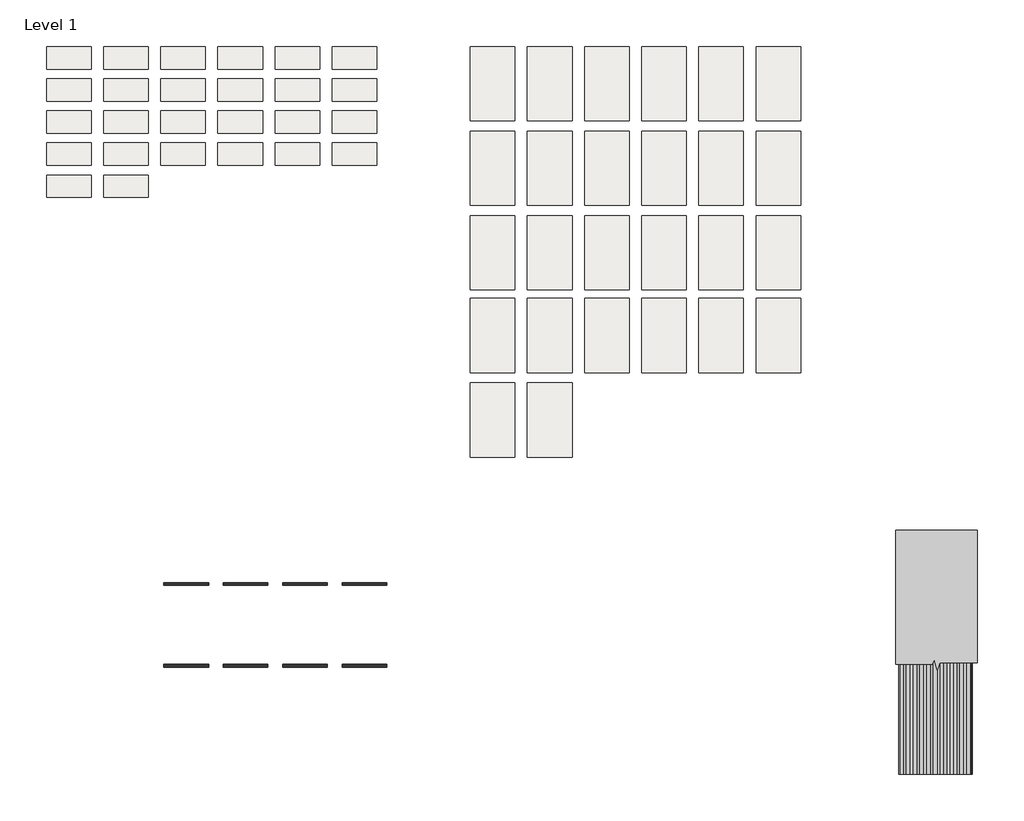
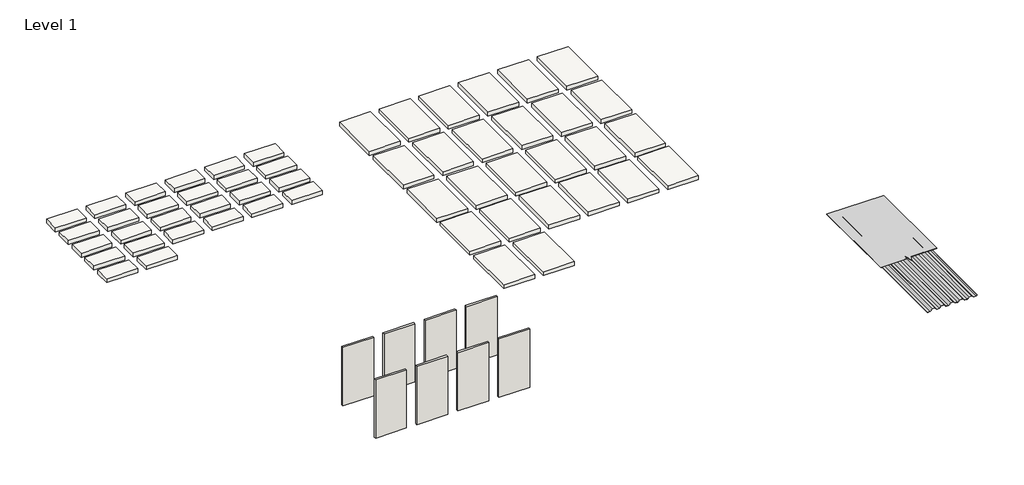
# One storey: 52 slabs, 8 walls, 2 proxies.
"""IFC4 building model written with IfcOpenShell, lengths in millimetres."""

import ifcopenshell
import ifcopenshell.guid

model = None  # the IFC model being written
_history = None  # IfcOwnerHistory: only IFC2X3 demands one
_inside = {}  # id of a spatial element -> (the spatial element, [elements in it])
_under = {}  # id of a project, library or spatial element -> (it, [spatial elements below it])
_declared = {}  # id of a project -> (the project, [libraries it declares])
_typed = {}  # id of a type object -> (the type object, [elements of that type])
_made_of = {}  # id of a material, layer set ... -> (it, [elements and type objects made of it])


def new_model(schema):
    """Start an empty IFC model of exactly this schema.

    Asked for "IFC4X3", IfcOpenShell would pick the latest addendum, in which some entities
    have other attributes; the version numbers below select the first issue.
    IFC2X3 requires an IfcOwnerHistory on every rooted entity: one is made here for all.
    """
    global model, _history
    if schema == "IFC4X3":
        model = ifcopenshell.file(schema_version=(4, 3, 0, 0))
    else:
        model = ifcopenshell.file(schema=schema)
    _inside.clear()
    _under.clear()
    _declared.clear()
    _typed.clear()
    _made_of.clear()
    _history = None
    if model.schema == "IFC2X3":
        org = make("IfcOrganization", Name="unknown")
        user = make(
            "IfcPersonAndOrganization",
            ThePerson=make("IfcPerson", FamilyName="unknown"),
            TheOrganization=org,
        )
        app = make(
            "IfcApplication",
            ApplicationDeveloper=org,
            Version="unknown",
            ApplicationFullName="unknown",
            ApplicationIdentifier="unknown",
        )
        _history = make(
            "IfcOwnerHistory",
            OwningUser=user,
            OwningApplication=app,
            ChangeAction="ADDED",
            CreationDate=0,
        )
    return model


def make(cls, **values):
    """One entity of the class cls with the attributes given. An attribute that is None is left unset."""
    return model.create_entity(
        cls, **{name: value for name, value in values.items() if value is not None}
    )


def rooted(cls, **values):
    """An entity with a GlobalId (a new one), such as an element, a storey or a relation."""
    return make(cls, GlobalId=ifcopenshell.guid.new(), OwnerHistory=_history, **values)


def si_unit(unit_type, name, prefix=None):
    """IfcSIUnit, for example si_unit("LENGTHUNIT", "METRE", prefix="MILLI")."""
    return make("IfcSIUnit", UnitType=unit_type, Prefix=prefix, Name=name)


def assignment(units):
    """IfcUnitAssignment: the units of a project."""
    return None if units is None else make("IfcUnitAssignment", Units=units)


def point(xyz):
    """IfcCartesianPoint."""
    return None if xyz is None else make("IfcCartesianPoint", Coordinates=xyz)


def direction(xyz):
    """IfcDirection."""
    return None if xyz is None else make("IfcDirection", DirectionRatios=xyz)


def frame(location, z_axis=None, x_axis=None):
    """IfcAxis2Placement3D, a coordinate frame: its origin and axes. An axis left out is left unset."""
    return make(
        "IfcAxis2Placement3D",
        Location=point(location),
        Axis=direction(z_axis),
        RefDirection=direction(x_axis),
    )


def origin():
    """The frame at (0, 0, 0) with its axes left unset."""
    return frame((0.0, 0.0, 0.0))


def origin_with_axes():
    """The frame at (0, 0, 0) with the z axis (0, 0, 1) and the x axis (1, 0, 0) written out."""
    return frame((0.0, 0.0, 0.0), z_axis=(0.0, 0.0, 1.0), x_axis=(1.0, 0.0, 0.0))


def place(relative_to, where):
    """IfcLocalPlacement: puts the frame where relative to a parent placement (None: the world)."""
    return make(
        "IfcLocalPlacement", PlacementRelTo=relative_to, RelativePlacement=where
    )


def context(
    kind, dimensions, precision=None, world=None, true_north=None, identifier=None
):
    """IfcGeometricRepresentationContext, for example the 3D "Model" context."""
    return make(
        "IfcGeometricRepresentationContext",
        ContextIdentifier=identifier,
        ContextType=kind,
        CoordinateSpaceDimension=dimensions,
        Precision=precision,
        WorldCoordinateSystem=world,
        TrueNorth=true_north,
    )


def project(units=None, contexts=None):
    """IfcProject with its units and contexts."""
    return rooted(
        "IfcProject",
        Name="project",
        RepresentationContexts=contexts,
        UnitsInContext=assignment(units),
    )


def spatial(cls, under=None, at=None, **own):
    """A site, building, storey or space (cls), placed at a placement, below another one or the project."""
    s = rooted(cls, ObjectPlacement=at, **own)
    if under is not None:
        _under.setdefault(under.id(), (under, []))[1].append(s)
    return s


def polyline(points):
    """IfcPolyline through the points."""
    return make("IfcPolyline", Points=[point(p) for p in points])


def outline(outer, holes=None, kind="AREA"):
    """IfcArbitraryClosedProfileDef: a profile drawn as a closed curve; with holes, ...WithVoids."""
    if holes is None:
        return make("IfcArbitraryClosedProfileDef", ProfileType=kind, OuterCurve=outer)
    return make(
        "IfcArbitraryProfileDefWithVoids",
        ProfileType=kind,
        OuterCurve=outer,
        InnerCurves=holes,
    )


def extrude(swept, where, along, depth):
    """IfcExtrudedAreaSolid: the profile swept, set in the frame where, extruded along a direction by depth."""
    return make(
        "IfcExtrudedAreaSolid",
        SweptArea=swept,
        Position=where,
        ExtrudedDirection=direction(along),
        Depth=depth,
    )


def shape(context_of_items, identifier, shape_type, items):
    """IfcShapeRepresentation: the items that make up one representation, for example the "Body"."""
    return make(
        "IfcShapeRepresentation",
        ContextOfItems=context_of_items,
        RepresentationIdentifier=identifier,
        RepresentationType=shape_type,
        Items=items,
    )


def source(mapping_origin, context_of_items, identifier, shape_type, items):
    """IfcRepresentationMap: a shape defined once, which mapped items show again and again."""
    return make(
        "IfcRepresentationMap",
        MappingOrigin=mapping_origin,
        MappedRepresentation=shape(context_of_items, identifier, shape_type, items),
    )


def transform(
    local_origin,
    x_axis=None,
    y_axis=None,
    z_axis=None,
    scale=None,
    scale2=None,
    scale3=None,
    uniform=True,
):
    """IfcCartesianTransformationOperator3D, or its non-uniform kind. x_axis, y_axis, z_axis: its Axis1, 2, 3."""
    if uniform:
        return make(
            "IfcCartesianTransformationOperator3D",
            Axis1=direction(x_axis),
            Axis2=direction(y_axis),
            LocalOrigin=point(local_origin),
            Scale=scale,
            Axis3=direction(z_axis),
        )
    return make(
        "IfcCartesianTransformationOperator3DnonUniform",
        Axis1=direction(x_axis),
        Axis2=direction(y_axis),
        LocalOrigin=point(local_origin),
        Scale=scale,
        Axis3=direction(z_axis),
        Scale2=scale2,
        Scale3=scale3,
    )


def mapped(mapping_source, mapping_target):
    """IfcMappedItem: shows the shape of a source again, moved by a transform."""
    return make(
        "IfcMappedItem", MappingSource=mapping_source, MappingTarget=mapping_target
    )


def made_of(thing, what):
    """Note that an element or type object is made of a material, layer set ...; save() writes the relation."""
    if what is not None:
        _made_of.setdefault(what.id(), (what, []))[1].append(thing)
    return thing


def element(
    cls,
    number,
    at=None,
    inside=None,
    cuts=None,
    type_object=None,
    material=None,
    context=None,
    identifier="Body",
    shape_type=None,
    held_by="IfcProductDefinitionShape",
    body=None,
    shapes=None,
    **own,
):
    """One element of the class cls, such as IfcWall. Its Tag is "e" and its number.

    at: its placement. inside: the storey or other place that contains it. cuts: it is an
    opening in that element (IfcRelVoidsElement). A single representation is given by context,
    identifier, shape_type and body (its items); several are given by shapes. held_by: the class
    of the entity that holds the representations. save() writes the other relations.
    """
    e = rooted(cls, Tag="e%d" % number, ObjectPlacement=at, **own)
    if body is not None:
        shapes = [shape(context, identifier, shape_type, body)]
    if shapes is not None:
        e.Representation = make(held_by, Representations=shapes)
    if inside is not None:
        _inside.setdefault(inside.id(), (inside, []))[1].append(e)
    if cuts is not None:
        rooted(
            "IfcRelVoidsElement", RelatingBuildingElement=cuts, RelatedOpeningElement=e
        )
    if type_object is not None:
        _typed.setdefault(type_object.id(), (type_object, []))[1].append(e)
    return made_of(e, material)


def aggregate(whole, parts):
    """IfcRelAggregates: a whole, such as a stair, and the parts it consists of."""
    return rooted("IfcRelAggregates", RelatingObject=whole, RelatedObjects=parts)


def save(model, path):
    """Write the relations noted so far, then the file.

    IfcRelAggregates (storeys below a building ...), IfcRelContainedInSpatialStructure (elements
    in a storey), IfcRelDefinesByType, IfcRelAssociatesMaterial and IfcRelDeclares: one each for
    every whole, place, type object, material and project.
    """
    for whole, parts in _under.values():
        aggregate(whole, parts)
    for where, things in _inside.values():
        rooted(
            "IfcRelContainedInSpatialStructure",
            RelatedElements=things,
            RelatingStructure=where,
        )
    for kind, things in _typed.values():
        rooted("IfcRelDefinesByType", RelatedObjects=things, RelatingType=kind)
    for what, things in _made_of.values():
        rooted("IfcRelAssociatesMaterial", RelatedObjects=things, RelatingMaterial=what)
    for by, libraries in _declared.values():
        rooted("IfcRelDeclares", RelatingContext=by, RelatedDefinitions=libraries)
    model.write(path)


def proxy_33632e19(model_context):
    return source(origin(), model_context, "Body", "SweptSolid", [
        extrude(outline(polyline([(0.0, -247.8557567), (37.465, -209.0596134), (37.465, -156.7003866), (0.0, -117.9042433), (0.0, -64.9757567), (37.465, -26.1796134), (37.465, 26.1796134), (0.0, 64.9757567), (0.0, 117.9042433), (37.465, 156.7003866), (37.465, 209.0596134), (0.0, 247.8557567), (0.0, 300.7842433), (37.465, 339.5803866), (37.465, 391.9396134), (0.0, 430.7357567), (0.0, 483.6642433), (19.5273022, 503.8853568), (20.1632012, 503.2494578), (0.89916, 483.3009591), (0.89916, 431.0990409), (38.36416, 392.3028977), (38.36416, 339.2171023), (0.89916, 300.4209591), (0.89916, 248.2190409), (38.36416, 209.4228977), (38.36416, 156.3371023), (0.89916, 117.5409591), (0.89916, 65.3390409), (38.36416, 26.5428977), (38.36416, -26.5428977), (0.89916, -65.3390409), (0.89916, -117.5409591), (38.36416, -156.3371023), (38.36416, -209.4228977), (0.89916, -248.2190409), (0.89916, -300.4209591), (38.36416, -339.2171023), (38.36416, -392.8721575), (0.89916, -431.6683007), (0.89916, -483.3009619), (14.7449924, -497.6387411), (14.1090934, -498.2746401), (0.0, -483.6642462), (0.0, -431.3050165), (37.465, -392.5088732), (37.465, -339.5803866), (0.0, -300.7842433), (0.0, -247.8557567)])), frame((0.0, -3302.0, 0.0), z_axis=(0.0, 1.0, 0.0), x_axis=(0.0, 0.0, 1.0)), (0.0, 0.0, 1.0), 3302.0),
    ])


def section_mask3_section_mask_4427abd5(model_context):
    return source(origin(), model_context, "Body", "SweptSolid", [
        extrude(outline(polyline([(8137.364325, 612.223934), (7633.1736421, 612.223934), (7633.1736421, 2446.4114947), (8752.9802012, 2446.4114947), (8752.9802012, 633.0724056), (8239.9982256, 633.0724056), (8203.3813689, 533.9095639), (8160.3812645, 674.5565681), (8137.364325, 612.223934)])), frame((0.0, 0.0, 45.0273345), z_axis=(0.0, 0.0, 1.0), x_axis=(1.0, 0.0, 0.0)), (0.0, 0.0, 1.0), 7.2631445),
    ])


model = new_model("IFC4")

# Units and contexts
model_context = context("Model", 3, world=origin())
ifc_project = project(units=[si_unit("LENGTHUNIT", "METRE", prefix="MILLI")], contexts=[model_context])

# Site, building, storey
site = spatial("IfcSite", under=ifc_project)
building = spatial("IfcBuilding", under=site)
storey = spatial("IfcBuildingStorey", under=building, Name="Level 1", Elevation=0.0)

# Proxies
placement = place(None, origin())
proxy_shape = proxy_33632e19(model_context)
element("IfcBuildingElementProxy", 1, Name="Reversed_HR-36_Panel_AEP_Span : 36\" Reversed HR-36 Panel - 18ga", ObjectType="Reversed_HR-36_Panel_AEP_Span : 36\" Reversed HR-36 Panel - 18ga", at=placement, inside=storey, context=model_context, shape_type="MappedRepresentation", body=[
    mapped(proxy_shape, transform((7230.0526175, 859.7496021, 0.0), x_axis=(1.0, 0.0, 0.0), y_axis=(0.0, 1.0, 0.0), z_axis=(0.0, 0.0, 1.0))),
])
section_mask3_section_mask_shape = section_mask3_section_mask_4427abd5(model_context)
element("IfcBuildingElementProxy", 2, Name="Section Mask3 : Section Mask", ObjectType="Section Mask3 : Section Mask", at=placement, inside=storey, context=model_context, shape_type="MappedRepresentation", body=[
    mapped(section_mask3_section_mask_shape, transform((-944.8333101, -1549.8820293, -1.5875), x_axis=(1.0, 0.0, 0.0), y_axis=(0.0, 1.0, 0.0), z_axis=(0.0, 0.0, 1.0))),
])

# Slabs
element("IfcSlab", 3, ObjectType="AEP Span Material Sample", at=placement, inside=storey, context=model_context, shape_type="SweptSolid", body=[
    extrude(outline(polyline([(-4307.8660775, 7199.3976846), (-4917.4660775, 7199.3976846), (-4917.4660775, 7504.1976846), (-4307.8660775, 7504.1976846), (-4307.8660775, 7199.3976846)])), frame((0.0, 0.0, -79.375), z_axis=(0.0, 0.0, 1.0), x_axis=(1.0, 0.0, 0.0)), (0.0, 0.0, 1.0), 79.375),
])
element("IfcSlab", 4, ObjectType="AEP Span Material Sample", at=placement, inside=storey, context=model_context, shape_type="SweptSolid", body=[
    extrude(outline(polyline([(-3526.8160775, 7199.3976846), (-4136.4160775, 7199.3976846), (-4136.4160775, 7504.1976846), (-3526.8160775, 7504.1976846), (-3526.8160775, 7199.3976846)])), frame((0.0, 0.0, -79.375), z_axis=(0.0, 0.0, 1.0), x_axis=(1.0, 0.0, 0.0)), (0.0, 0.0, 1.0), 79.375),
])
element("IfcSlab", 5, ObjectType="AEP Span Material Sample", at=placement, inside=storey, context=model_context, shape_type="SweptSolid", body=[
    extrude(outline(polyline([(-2745.7660775, 7199.3976846), (-3355.3660775, 7199.3976846), (-3355.3660775, 7504.1976846), (-2745.7660775, 7504.1976846), (-2745.7660775, 7199.3976846)])), frame((0.0, 0.0, -79.375), z_axis=(0.0, 0.0, 1.0), x_axis=(1.0, 0.0, 0.0)), (0.0, 0.0, 1.0), 79.375),
])
element("IfcSlab", 6, ObjectType="AEP Span Material Sample", at=placement, inside=storey, context=model_context, shape_type="SweptSolid", body=[
    extrude(outline(polyline([(-1964.7160775, 7199.3976846), (-2574.3160775, 7199.3976846), (-2574.3160775, 7504.1976846), (-1964.7160775, 7504.1976846), (-1964.7160775, 7199.3976846)])), frame((0.0, 0.0, -79.375), z_axis=(0.0, 0.0, 1.0), x_axis=(1.0, 0.0, 0.0)), (0.0, 0.0, 1.0), 79.375),
])
element("IfcSlab", 7, ObjectType="AEP Span Material Sample", at=placement, inside=storey, context=model_context, shape_type="SweptSolid", body=[
    extrude(outline(polyline([(-1183.6660775, 7199.3976846), (-1793.2660775, 7199.3976846), (-1793.2660775, 7504.1976846), (-1183.6660775, 7504.1976846), (-1183.6660775, 7199.3976846)])), frame((0.0, 0.0, -79.375), z_axis=(0.0, 0.0, 1.0), x_axis=(1.0, 0.0, 0.0)), (0.0, 0.0, 1.0), 79.375),
])
element("IfcSlab", 8, ObjectType="AEP Span Material Sample", at=placement, inside=storey, context=model_context, shape_type="SweptSolid", body=[
    extrude(outline(polyline([(-402.6160775, 7199.3976846), (-1012.2160775, 7199.3976846), (-1012.2160775, 7504.1976846), (-402.6160775, 7504.1976846), (-402.6160775, 7199.3976846)])), frame((0.0, 0.0, -79.375), z_axis=(0.0, 0.0, 1.0), x_axis=(1.0, 0.0, 0.0)), (0.0, 0.0, 1.0), 79.375),
])
element("IfcSlab", 9, ObjectType="AEP Span Material Sample", at=placement, inside=storey, context=model_context, shape_type="SweptSolid", body=[
    extrude(outline(polyline([(-4307.8660775, 6761.2476846), (-4917.4660775, 6761.2476846), (-4917.4660775, 7066.0476846), (-4307.8660775, 7066.0476846), (-4307.8660775, 6761.2476846)])), frame((0.0, 0.0, -79.375), z_axis=(0.0, 0.0, 1.0), x_axis=(1.0, 0.0, 0.0)), (0.0, 0.0, 1.0), 79.375),
])
element("IfcSlab", 10, ObjectType="AEP Span Material Sample", at=placement, inside=storey, context=model_context, shape_type="SweptSolid", body=[
    extrude(outline(polyline([(-3526.8160775, 6761.2476846), (-4136.4160775, 6761.2476846), (-4136.4160775, 7066.0476846), (-3526.8160775, 7066.0476846), (-3526.8160775, 6761.2476846)])), frame((0.0, 0.0, -79.375), z_axis=(0.0, 0.0, 1.0), x_axis=(1.0, 0.0, 0.0)), (0.0, 0.0, 1.0), 79.375),
])
element("IfcSlab", 11, ObjectType="AEP Span Material Sample", at=placement, inside=storey, context=model_context, shape_type="SweptSolid", body=[
    extrude(outline(polyline([(-2745.7660775, 6761.2476846), (-3355.3660775, 6761.2476846), (-3355.3660775, 7066.0476846), (-2745.7660775, 7066.0476846), (-2745.7660775, 6761.2476846)])), frame((0.0, 0.0, -79.375), z_axis=(0.0, 0.0, 1.0), x_axis=(1.0, 0.0, 0.0)), (0.0, 0.0, 1.0), 79.375),
])
element("IfcSlab", 12, ObjectType="AEP Span Material Sample", at=placement, inside=storey, context=model_context, shape_type="SweptSolid", body=[
    extrude(outline(polyline([(-1964.7160775, 6761.2476846), (-2574.3160775, 6761.2476846), (-2574.3160775, 7066.0476846), (-1964.7160775, 7066.0476846), (-1964.7160775, 6761.2476846)])), frame((0.0, 0.0, -79.375), z_axis=(0.0, 0.0, 1.0), x_axis=(1.0, 0.0, 0.0)), (0.0, 0.0, 1.0), 79.375),
])
element("IfcSlab", 13, ObjectType="AEP Span Material Sample", at=placement, inside=storey, context=model_context, shape_type="SweptSolid", body=[
    extrude(outline(polyline([(-1183.6660775, 6761.2476846), (-1793.2660775, 6761.2476846), (-1793.2660775, 7066.0476846), (-1183.6660775, 7066.0476846), (-1183.6660775, 6761.2476846)])), frame((0.0, 0.0, -79.375), z_axis=(0.0, 0.0, 1.0), x_axis=(1.0, 0.0, 0.0)), (0.0, 0.0, 1.0), 79.375),
])
element("IfcSlab", 14, ObjectType="AEP Span Material Sample", at=placement, inside=storey, context=model_context, shape_type="SweptSolid", body=[
    extrude(outline(polyline([(-402.6160775, 6761.2476846), (-1012.2160775, 6761.2476846), (-1012.2160775, 7066.0476846), (-402.6160775, 7066.0476846), (-402.6160775, 6761.2476846)])), frame((0.0, 0.0, -79.375), z_axis=(0.0, 0.0, 1.0), x_axis=(1.0, 0.0, 0.0)), (0.0, 0.0, 1.0), 79.375),
])
element("IfcSlab", 15, ObjectType="AEP Span Material Sample", at=placement, inside=storey, context=model_context, shape_type="SweptSolid", body=[
    extrude(outline(polyline([(-4307.8660775, 6323.0976846), (-4917.4660775, 6323.0976846), (-4917.4660775, 6627.8976846), (-4307.8660775, 6627.8976846), (-4307.8660775, 6323.0976846)])), frame((0.0, 0.0, -79.375), z_axis=(0.0, 0.0, 1.0), x_axis=(1.0, 0.0, 0.0)), (0.0, 0.0, 1.0), 79.375),
])
element("IfcSlab", 16, ObjectType="AEP Span Material Sample", at=placement, inside=storey, context=model_context, shape_type="SweptSolid", body=[
    extrude(outline(polyline([(-3526.8160775, 6323.0976846), (-4136.4160775, 6323.0976846), (-4136.4160775, 6627.8976846), (-3526.8160775, 6627.8976846), (-3526.8160775, 6323.0976846)])), frame((0.0, 0.0, -79.375), z_axis=(0.0, 0.0, 1.0), x_axis=(1.0, 0.0, 0.0)), (0.0, 0.0, 1.0), 79.375),
])
element("IfcSlab", 17, ObjectType="AEP Span Material Sample", at=placement, inside=storey, context=model_context, shape_type="SweptSolid", body=[
    extrude(outline(polyline([(-2745.7660775, 6323.0976846), (-3355.3660775, 6323.0976846), (-3355.3660775, 6627.8976846), (-2745.7660775, 6627.8976846), (-2745.7660775, 6323.0976846)])), frame((0.0, 0.0, -79.375), z_axis=(0.0, 0.0, 1.0), x_axis=(1.0, 0.0, 0.0)), (0.0, 0.0, 1.0), 79.375),
])
element("IfcSlab", 18, ObjectType="AEP Span Material Sample", at=placement, inside=storey, context=model_context, shape_type="SweptSolid", body=[
    extrude(outline(polyline([(-1964.7160775, 6323.0976846), (-2574.3160775, 6323.0976846), (-2574.3160775, 6627.8976846), (-1964.7160775, 6627.8976846), (-1964.7160775, 6323.0976846)])), frame((0.0, 0.0, -79.375), z_axis=(0.0, 0.0, 1.0), x_axis=(1.0, 0.0, 0.0)), (0.0, 0.0, 1.0), 79.375),
])
element("IfcSlab", 19, ObjectType="AEP Span Material Sample", at=placement, inside=storey, context=model_context, shape_type="SweptSolid", body=[
    extrude(outline(polyline([(-1183.6660775, 6323.0976846), (-1793.2660775, 6323.0976846), (-1793.2660775, 6627.8976846), (-1183.6660775, 6627.8976846), (-1183.6660775, 6323.0976846)])), frame((0.0, 0.0, -79.375), z_axis=(0.0, 0.0, 1.0), x_axis=(1.0, 0.0, 0.0)), (0.0, 0.0, 1.0), 79.375),
])
element("IfcSlab", 20, ObjectType="AEP Span Material Sample", at=placement, inside=storey, context=model_context, shape_type="SweptSolid", body=[
    extrude(outline(polyline([(-402.6160775, 6323.0976846), (-1012.2160775, 6323.0976846), (-1012.2160775, 6627.8976846), (-402.6160775, 6627.8976846), (-402.6160775, 6323.0976846)])), frame((0.0, 0.0, -79.375), z_axis=(0.0, 0.0, 1.0), x_axis=(1.0, 0.0, 0.0)), (0.0, 0.0, 1.0), 79.375),
])
element("IfcSlab", 21, ObjectType="AEP Span Material Sample", at=placement, inside=storey, context=model_context, shape_type="SweptSolid", body=[
    extrude(outline(polyline([(-4307.8660775, 5884.9476846), (-4917.4660775, 5884.9476846), (-4917.4660775, 6189.7476846), (-4307.8660775, 6189.7476846), (-4307.8660775, 5884.9476846)])), frame((0.0, 0.0, -79.375), z_axis=(0.0, 0.0, 1.0), x_axis=(1.0, 0.0, 0.0)), (0.0, 0.0, 1.0), 79.375),
])
element("IfcSlab", 22, ObjectType="AEP Span Material Sample", at=placement, inside=storey, context=model_context, shape_type="SweptSolid", body=[
    extrude(outline(polyline([(-3526.8160775, 5884.9476846), (-4136.4160775, 5884.9476846), (-4136.4160775, 6189.7476846), (-3526.8160775, 6189.7476846), (-3526.8160775, 5884.9476846)])), frame((0.0, 0.0, -79.375), z_axis=(0.0, 0.0, 1.0), x_axis=(1.0, 0.0, 0.0)), (0.0, 0.0, 1.0), 79.375),
])
element("IfcSlab", 23, ObjectType="AEP Span Material Sample", at=placement, inside=storey, context=model_context, shape_type="SweptSolid", body=[
    extrude(outline(polyline([(-2745.7660775, 5884.9476846), (-3355.3660775, 5884.9476846), (-3355.3660775, 6189.7476846), (-2745.7660775, 6189.7476846), (-2745.7660775, 5884.9476846)])), frame((0.0, 0.0, -79.375), z_axis=(0.0, 0.0, 1.0), x_axis=(1.0, 0.0, 0.0)), (0.0, 0.0, 1.0), 79.375),
])
element("IfcSlab", 24, ObjectType="AEP Span Material Sample", at=placement, inside=storey, context=model_context, shape_type="SweptSolid", body=[
    extrude(outline(polyline([(-1964.7160775, 5884.9476846), (-2574.3160775, 5884.9476846), (-2574.3160775, 6189.7476846), (-1964.7160775, 6189.7476846), (-1964.7160775, 5884.9476846)])), frame((0.0, 0.0, -79.375), z_axis=(0.0, 0.0, 1.0), x_axis=(1.0, 0.0, 0.0)), (0.0, 0.0, 1.0), 79.375),
])
element("IfcSlab", 25, ObjectType="AEP Span Material Sample", at=placement, inside=storey, context=model_context, shape_type="SweptSolid", body=[
    extrude(outline(polyline([(-1183.6660775, 5884.9476846), (-1793.2660775, 5884.9476846), (-1793.2660775, 6189.7476846), (-1183.6660775, 6189.7476846), (-1183.6660775, 5884.9476846)])), frame((0.0, 0.0, -79.375), z_axis=(0.0, 0.0, 1.0), x_axis=(1.0, 0.0, 0.0)), (0.0, 0.0, 1.0), 79.375),
])
element("IfcSlab", 26, ObjectType="AEP Span Material Sample", at=placement, inside=storey, context=model_context, shape_type="SweptSolid", body=[
    extrude(outline(polyline([(-402.6160775, 5884.9476846), (-1012.2160775, 5884.9476846), (-1012.2160775, 6189.7476846), (-402.6160775, 6189.7476846), (-402.6160775, 5884.9476846)])), frame((0.0, 0.0, -79.375), z_axis=(0.0, 0.0, 1.0), x_axis=(1.0, 0.0, 0.0)), (0.0, 0.0, 1.0), 79.375),
])
element("IfcSlab", 27, ObjectType="AEP Span Material Sample", at=placement, inside=storey, context=model_context, shape_type="SweptSolid", body=[
    extrude(outline(polyline([(-4307.8660775, 5446.7976846), (-4917.4660775, 5446.7976846), (-4917.4660775, 5751.5976846), (-4307.8660775, 5751.5976846), (-4307.8660775, 5446.7976846)])), frame((0.0, 0.0, -79.375), z_axis=(0.0, 0.0, 1.0), x_axis=(1.0, 0.0, 0.0)), (0.0, 0.0, 1.0), 79.375),
])
element("IfcSlab", 28, ObjectType="AEP Span Material Sample", at=placement, inside=storey, context=model_context, shape_type="SweptSolid", body=[
    extrude(outline(polyline([(-3526.8160775, 5446.7976846), (-4136.4160775, 5446.7976846), (-4136.4160775, 5751.5976846), (-3526.8160775, 5751.5976846), (-3526.8160775, 5446.7976846)])), frame((0.0, 0.0, -79.375), z_axis=(0.0, 0.0, 1.0), x_axis=(1.0, 0.0, 0.0)), (0.0, 0.0, 1.0), 79.375),
])
element("IfcSlab", 29, ObjectType="AEP Span Material Sample", at=placement, inside=storey, context=model_context, shape_type="SweptSolid", body=[
    extrude(outline(polyline([(1485.5495194, 6492.0895229), (875.9495194, 6492.0895229), (875.9495194, 7508.0895229), (1485.5495194, 7508.0895229), (1485.5495194, 6492.0895229)])), frame((0.0, 0.0, -79.375), z_axis=(0.0, 0.0, 1.0), x_axis=(1.0, 0.0, 0.0)), (0.0, 0.0, 1.0), 79.375),
])
element("IfcSlab", 30, ObjectType="AEP Span Material Sample", at=placement, inside=storey, context=model_context, shape_type="SweptSolid", body=[
    extrude(outline(polyline([(2266.5995194, 6492.0895229), (1656.9995194, 6492.0895229), (1656.9995194, 7508.0895229), (2266.5995194, 7508.0895229), (2266.5995194, 6492.0895229)])), frame((0.0, 0.0, -79.375), z_axis=(0.0, 0.0, 1.0), x_axis=(1.0, 0.0, 0.0)), (0.0, 0.0, 1.0), 79.375),
])
element("IfcSlab", 31, ObjectType="AEP Span Material Sample", at=placement, inside=storey, context=model_context, shape_type="SweptSolid", body=[
    extrude(outline(polyline([(3047.6495194, 6492.0895229), (2438.0495194, 6492.0895229), (2438.0495194, 7508.0895229), (3047.6495194, 7508.0895229), (3047.6495194, 6492.0895229)])), frame((0.0, 0.0, -79.375), z_axis=(0.0, 0.0, 1.0), x_axis=(1.0, 0.0, 0.0)), (0.0, 0.0, 1.0), 79.375),
])
element("IfcSlab", 32, ObjectType="AEP Span Material Sample", at=placement, inside=storey, context=model_context, shape_type="SweptSolid", body=[
    extrude(outline(polyline([(3828.6995194, 6492.0895229), (3219.0995194, 6492.0895229), (3219.0995194, 7508.0895229), (3828.6995194, 7508.0895229), (3828.6995194, 6492.0895229)])), frame((0.0, 0.0, -79.375), z_axis=(0.0, 0.0, 1.0), x_axis=(1.0, 0.0, 0.0)), (0.0, 0.0, 1.0), 79.375),
])
element("IfcSlab", 33, ObjectType="AEP Span Material Sample", at=placement, inside=storey, context=model_context, shape_type="SweptSolid", body=[
    extrude(outline(polyline([(4609.7495194, 6492.0895229), (4000.1495194, 6492.0895229), (4000.1495194, 7508.0895229), (4609.7495194, 7508.0895229), (4609.7495194, 6492.0895229)])), frame((0.0, 0.0, -79.375), z_axis=(0.0, 0.0, 1.0), x_axis=(1.0, 0.0, 0.0)), (0.0, 0.0, 1.0), 79.375),
])
element("IfcSlab", 34, ObjectType="AEP Span Material Sample", at=placement, inside=storey, context=model_context, shape_type="SweptSolid", body=[
    extrude(outline(polyline([(5390.7995194, 6492.0895229), (4781.1995194, 6492.0895229), (4781.1995194, 7508.0895229), (5390.7995194, 7508.0895229), (5390.7995194, 6492.0895229)])), frame((0.0, 0.0, -79.375), z_axis=(0.0, 0.0, 1.0), x_axis=(1.0, 0.0, 0.0)), (0.0, 0.0, 1.0), 79.375),
])
element("IfcSlab", 35, ObjectType="AEP Span Material Sample", at=placement, inside=storey, context=model_context, shape_type="SweptSolid", body=[
    extrude(outline(polyline([(1485.5495194, 5336.3895229), (875.9495194, 5336.3895229), (875.9495194, 6352.3895229), (1485.5495194, 6352.3895229), (1485.5495194, 5336.3895229)])), frame((0.0, 0.0, -79.375), z_axis=(0.0, 0.0, 1.0), x_axis=(1.0, 0.0, 0.0)), (0.0, 0.0, 1.0), 79.375),
])
element("IfcSlab", 36, ObjectType="AEP Span Material Sample", at=placement, inside=storey, context=model_context, shape_type="SweptSolid", body=[
    extrude(outline(polyline([(2266.5995194, 5336.3895229), (1656.9995194, 5336.3895229), (1656.9995194, 6352.3895229), (2266.5995194, 6352.3895229), (2266.5995194, 5336.3895229)])), frame((0.0, 0.0, -79.375), z_axis=(0.0, 0.0, 1.0), x_axis=(1.0, 0.0, 0.0)), (0.0, 0.0, 1.0), 79.375),
])
element("IfcSlab", 37, ObjectType="AEP Span Material Sample", at=placement, inside=storey, context=model_context, shape_type="SweptSolid", body=[
    extrude(outline(polyline([(3047.6495194, 5336.3895229), (2438.0495194, 5336.3895229), (2438.0495194, 6352.3895229), (3047.6495194, 6352.3895229), (3047.6495194, 5336.3895229)])), frame((0.0, 0.0, -79.375), z_axis=(0.0, 0.0, 1.0), x_axis=(1.0, 0.0, 0.0)), (0.0, 0.0, 1.0), 79.375),
])
element("IfcSlab", 38, ObjectType="AEP Span Material Sample", at=placement, inside=storey, context=model_context, shape_type="SweptSolid", body=[
    extrude(outline(polyline([(3828.6995194, 5336.3895229), (3219.0995194, 5336.3895229), (3219.0995194, 6352.3895229), (3828.6995194, 6352.3895229), (3828.6995194, 5336.3895229)])), frame((0.0, 0.0, -79.375), z_axis=(0.0, 0.0, 1.0), x_axis=(1.0, 0.0, 0.0)), (0.0, 0.0, 1.0), 79.375),
])
element("IfcSlab", 39, ObjectType="AEP Span Material Sample", at=placement, inside=storey, context=model_context, shape_type="SweptSolid", body=[
    extrude(outline(polyline([(4609.7495194, 5336.3895229), (4000.1495194, 5336.3895229), (4000.1495194, 6352.3895229), (4609.7495194, 6352.3895229), (4609.7495194, 5336.3895229)])), frame((0.0, 0.0, -79.375), z_axis=(0.0, 0.0, 1.0), x_axis=(1.0, 0.0, 0.0)), (0.0, 0.0, 1.0), 79.375),
])
element("IfcSlab", 40, ObjectType="AEP Span Material Sample", at=placement, inside=storey, context=model_context, shape_type="SweptSolid", body=[
    extrude(outline(polyline([(5390.7995194, 5336.3895229), (4781.1995194, 5336.3895229), (4781.1995194, 6352.3895229), (5390.7995194, 6352.3895229), (5390.7995194, 5336.3895229)])), frame((0.0, 0.0, -79.375), z_axis=(0.0, 0.0, 1.0), x_axis=(1.0, 0.0, 0.0)), (0.0, 0.0, 1.0), 79.375),
])
element("IfcSlab", 41, ObjectType="AEP Span Material Sample", at=placement, inside=storey, context=model_context, shape_type="SweptSolid", body=[
    extrude(outline(polyline([(1485.5495194, 4180.6895229), (875.9495194, 4180.6895229), (875.9495194, 5196.6895229), (1485.5495194, 5196.6895229), (1485.5495194, 4180.6895229)])), frame((0.0, 0.0, -79.375), z_axis=(0.0, 0.0, 1.0), x_axis=(1.0, 0.0, 0.0)), (0.0, 0.0, 1.0), 79.375),
])
element("IfcSlab", 42, ObjectType="AEP Span Material Sample", at=placement, inside=storey, context=model_context, shape_type="SweptSolid", body=[
    extrude(outline(polyline([(2266.5995194, 4180.6895229), (1656.9995194, 4180.6895229), (1656.9995194, 5196.6895229), (2266.5995194, 5196.6895229), (2266.5995194, 4180.6895229)])), frame((0.0, 0.0, -79.375), z_axis=(0.0, 0.0, 1.0), x_axis=(1.0, 0.0, 0.0)), (0.0, 0.0, 1.0), 79.375),
])
element("IfcSlab", 43, ObjectType="AEP Span Material Sample", at=placement, inside=storey, context=model_context, shape_type="SweptSolid", body=[
    extrude(outline(polyline([(3047.6495194, 4180.6895229), (2438.0495194, 4180.6895229), (2438.0495194, 5196.6895229), (3047.6495194, 5196.6895229), (3047.6495194, 4180.6895229)])), frame((0.0, 0.0, -79.375), z_axis=(0.0, 0.0, 1.0), x_axis=(1.0, 0.0, 0.0)), (0.0, 0.0, 1.0), 79.375),
])
element("IfcSlab", 44, ObjectType="AEP Span Material Sample", at=placement, inside=storey, context=model_context, shape_type="SweptSolid", body=[
    extrude(outline(polyline([(3828.6995194, 4180.6895229), (3219.0995194, 4180.6895229), (3219.0995194, 5196.6895229), (3828.6995194, 5196.6895229), (3828.6995194, 4180.6895229)])), frame((0.0, 0.0, -79.375), z_axis=(0.0, 0.0, 1.0), x_axis=(1.0, 0.0, 0.0)), (0.0, 0.0, 1.0), 79.375),
])
element("IfcSlab", 45, ObjectType="AEP Span Material Sample", at=placement, inside=storey, context=model_context, shape_type="SweptSolid", body=[
    extrude(outline(polyline([(4609.7495194, 4180.6895229), (4000.1495194, 4180.6895229), (4000.1495194, 5196.6895229), (4609.7495194, 5196.6895229), (4609.7495194, 4180.6895229)])), frame((0.0, 0.0, -79.375), z_axis=(0.0, 0.0, 1.0), x_axis=(1.0, 0.0, 0.0)), (0.0, 0.0, 1.0), 79.375),
])
element("IfcSlab", 46, ObjectType="AEP Span Material Sample", at=placement, inside=storey, context=model_context, shape_type="SweptSolid", body=[
    extrude(outline(polyline([(5390.7995194, 4180.6895229), (4781.1995194, 4180.6895229), (4781.1995194, 5196.6895229), (5390.7995194, 5196.6895229), (5390.7995194, 4180.6895229)])), frame((0.0, 0.0, -79.375), z_axis=(0.0, 0.0, 1.0), x_axis=(1.0, 0.0, 0.0)), (0.0, 0.0, 1.0), 79.375),
])
element("IfcSlab", 47, ObjectType="AEP Span Material Sample", at=placement, inside=storey, context=model_context, shape_type="SweptSolid", body=[
    extrude(outline(polyline([(1485.5495194, 3050.3895229), (875.9495194, 3050.3895229), (875.9495194, 4066.3895229), (1485.5495194, 4066.3895229), (1485.5495194, 3050.3895229)])), frame((0.0, 0.0, -79.375), z_axis=(0.0, 0.0, 1.0), x_axis=(1.0, 0.0, 0.0)), (0.0, 0.0, 1.0), 79.375),
])
element("IfcSlab", 48, ObjectType="AEP Span Material Sample", at=placement, inside=storey, context=model_context, shape_type="SweptSolid", body=[
    extrude(outline(polyline([(2266.5995194, 3050.3895229), (1656.9995194, 3050.3895229), (1656.9995194, 4066.3895229), (2266.5995194, 4066.3895229), (2266.5995194, 3050.3895229)])), frame((0.0, 0.0, -79.375), z_axis=(0.0, 0.0, 1.0), x_axis=(1.0, 0.0, 0.0)), (0.0, 0.0, 1.0), 79.375),
])
element("IfcSlab", 49, ObjectType="AEP Span Material Sample", at=placement, inside=storey, context=model_context, shape_type="SweptSolid", body=[
    extrude(outline(polyline([(3047.6495194, 3050.3895229), (2438.0495194, 3050.3895229), (2438.0495194, 4066.3895229), (3047.6495194, 4066.3895229), (3047.6495194, 3050.3895229)])), frame((0.0, 0.0, -79.375), z_axis=(0.0, 0.0, 1.0), x_axis=(1.0, 0.0, 0.0)), (0.0, 0.0, 1.0), 79.375),
])
element("IfcSlab", 50, ObjectType="AEP Span Material Sample", at=placement, inside=storey, context=model_context, shape_type="SweptSolid", body=[
    extrude(outline(polyline([(3828.6995194, 3050.3895229), (3219.0995194, 3050.3895229), (3219.0995194, 4066.3895229), (3828.6995194, 4066.3895229), (3828.6995194, 3050.3895229)])), frame((0.0, 0.0, -79.375), z_axis=(0.0, 0.0, 1.0), x_axis=(1.0, 0.0, 0.0)), (0.0, 0.0, 1.0), 79.375),
])
element("IfcSlab", 51, ObjectType="AEP Span Material Sample", at=placement, inside=storey, context=model_context, shape_type="SweptSolid", body=[
    extrude(outline(polyline([(4609.7495194, 3050.3895229), (4000.1495194, 3050.3895229), (4000.1495194, 4066.3895229), (4609.7495194, 4066.3895229), (4609.7495194, 3050.3895229)])), frame((0.0, 0.0, -79.375), z_axis=(0.0, 0.0, 1.0), x_axis=(1.0, 0.0, 0.0)), (0.0, 0.0, 1.0), 79.375),
])
element("IfcSlab", 52, ObjectType="AEP Span Material Sample", at=placement, inside=storey, context=model_context, shape_type="SweptSolid", body=[
    extrude(outline(polyline([(5390.7995194, 3050.3895229), (4781.1995194, 3050.3895229), (4781.1995194, 4066.3895229), (5390.7995194, 4066.3895229), (5390.7995194, 3050.3895229)])), frame((0.0, 0.0, -79.375), z_axis=(0.0, 0.0, 1.0), x_axis=(1.0, 0.0, 0.0)), (0.0, 0.0, 1.0), 79.375),
])
element("IfcSlab", 53, ObjectType="AEP Span Material Sample", at=placement, inside=storey, context=model_context, shape_type="SweptSolid", body=[
    extrude(outline(polyline([(1485.5495194, 1894.6895229), (875.9495194, 1894.6895229), (875.9495194, 2910.6895229), (1485.5495194, 2910.6895229), (1485.5495194, 1894.6895229)])), frame((0.0, 0.0, -79.375), z_axis=(0.0, 0.0, 1.0), x_axis=(1.0, 0.0, 0.0)), (0.0, 0.0, 1.0), 79.375),
])
element("IfcSlab", 54, ObjectType="AEP Span Material Sample", at=placement, inside=storey, context=model_context, shape_type="SweptSolid", body=[
    extrude(outline(polyline([(2266.5995194, 1894.6895229), (1656.9995194, 1894.6895229), (1656.9995194, 2910.6895229), (2266.5995194, 2910.6895229), (2266.5995194, 1894.6895229)])), frame((0.0, 0.0, -79.375), z_axis=(0.0, 0.0, 1.0), x_axis=(1.0, 0.0, 0.0)), (0.0, 0.0, 1.0), 79.375),
])

# Walls
element("IfcWall", 55, ObjectType="36\" Reversed HR-36 Horizontal - 20ga", at=placement, inside=storey, context=model_context, shape_type="SweptSolid", body=[
    extrude(outline(polyline([(-2703.3575546, 141.2022943), (-3312.9575546, 141.2022943), (-3312.9575546, 179.3022943), (-2703.3575546, 179.3022943), (-2703.3575546, 141.2022943)])), origin_with_axes(), (0.0, 0.0, 1.0), 1219.2),
])
element("IfcWall", 56, ObjectType="36\" Reversed HR-36 Horizontal - 22ga", at=placement, inside=storey, context=model_context, shape_type="SweptSolid", body=[
    extrude(outline(polyline([(-1890.5575546, 141.2022943), (-2500.1575546, 141.2022943), (-2500.1575546, 179.3022943), (-1890.5575546, 179.3022943), (-1890.5575546, 141.2022943)])), origin_with_axes(), (0.0, 0.0, 1.0), 1219.2),
])
element("IfcWall", 57, ObjectType="36\" Reversed HR-36 Horizontal - 24ga", at=placement, inside=storey, context=model_context, shape_type="SweptSolid", body=[
    extrude(outline(polyline([(-1077.7575546, 141.2022943), (-1687.3575546, 141.2022943), (-1687.3575546, 179.3022943), (-1077.7575546, 179.3022943), (-1077.7575546, 141.2022943)])), origin_with_axes(), (0.0, 0.0, 1.0), 1219.2),
])
element("IfcWall", 58, ObjectType="36\" Reversed HR-36 Horizontal - 26ga", at=placement, inside=storey, context=model_context, shape_type="SweptSolid", body=[
    extrude(outline(polyline([(-264.9575546, 141.2022943), (-874.5575546, 141.2022943), (-874.5575546, 179.3022943), (-264.9575546, 179.3022943), (-264.9575546, 141.2022943)])), origin_with_axes(), (0.0, 0.0, 1.0), 1219.2),
])
element("IfcWall", 59, ObjectType="36\" Reversed HR-36 Vertical - 20ga", at=placement, inside=storey, context=model_context, shape_type="SweptSolid", body=[
    extrude(outline(polyline([(-2703.3575546, -976.3977057), (-3312.9575546, -976.3977057), (-3312.9575546, -938.2977057), (-2703.3575546, -938.2977057), (-2703.3575546, -976.3977057)])), origin_with_axes(), (0.0, 0.0, 1.0), 1219.2),
])
element("IfcWall", 60, ObjectType="36\" Reversed HR-36 Vertical - 22ga", at=placement, inside=storey, context=model_context, shape_type="SweptSolid", body=[
    extrude(outline(polyline([(-1890.5575546, -976.3977057), (-2500.1575546, -976.3977057), (-2500.1575546, -938.2977057), (-1890.5575546, -938.2977057), (-1890.5575546, -976.3977057)])), origin_with_axes(), (0.0, 0.0, 1.0), 1219.2),
])
element("IfcWall", 61, ObjectType="36\" Reversed HR-36 Vertical - 24ga", at=placement, inside=storey, context=model_context, shape_type="SweptSolid", body=[
    extrude(outline(polyline([(-1077.7575546, -976.3977057), (-1687.3575546, -976.3977057), (-1687.3575546, -938.2977057), (-1077.7575546, -938.2977057), (-1077.7575546, -976.3977057)])), origin_with_axes(), (0.0, 0.0, 1.0), 1219.2),
])
element("IfcWall", 62, ObjectType="36\" Reversed HR-36 Vertical - 26ga", at=placement, inside=storey, context=model_context, shape_type="SweptSolid", body=[
    extrude(outline(polyline([(-264.9575546, -976.3977057), (-874.5575546, -976.3977057), (-874.5575546, -938.2977057), (-264.9575546, -938.2977057), (-264.9575546, -976.3977057)])), origin_with_axes(), (0.0, 0.0, 1.0), 1219.2),
])

save(model, "model.ifc")
